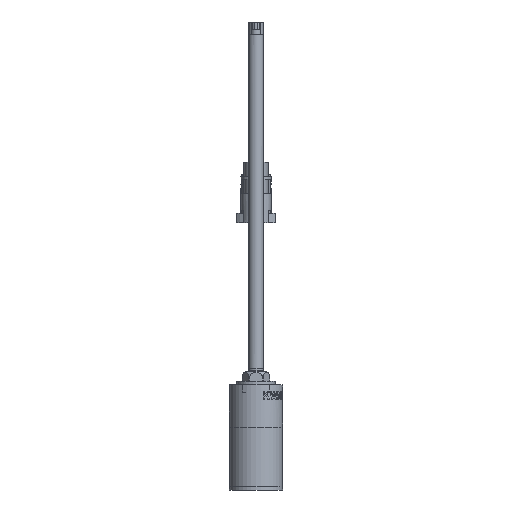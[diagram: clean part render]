
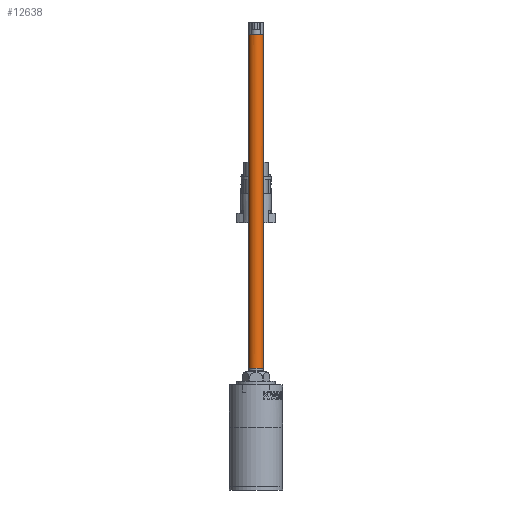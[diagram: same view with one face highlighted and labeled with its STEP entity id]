
A CAD part, left-side view. The second image highlights one B-rep face of the part: STEP entity #12638.
In plain terms, the highlighted cylindrical face has radius 3 mm (diameter 6 mm), a full revolution.
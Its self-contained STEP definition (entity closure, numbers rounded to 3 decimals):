
#12638=ADVANCED_FACE('',(#17310,#17311),#14483,.T.);
#14483=CYLINDRICAL_SURFACE('',#39978,3.);
#15363=B_SPLINE_CURVE_WITH_KNOTS('',3,(#59120,#59121,#59122,#59123,#59124,
#59125,#59126,#59127,#59128,#59129,#59130,#59131,#59132,#59133,#59134,#59135,
#59136,#59137),.UNSPECIFIED.,.T.,.F.,(2,2,2,2,2,2,2,2,2,2,2),(-0.125,0.,
0.125,0.25,0.375,0.5,0.625,0.75,0.875,1.,1.125),.UNSPECIFIED.);
#17310=FACE_BOUND('',#19048,.T.);
#17311=FACE_BOUND('',#19049,.T.);
#19048=EDGE_LOOP('',(#22967));
#19049=EDGE_LOOP('',(#22968));
#22967=ORIENTED_EDGE('',*,*,#34568,.T.);
#22968=ORIENTED_EDGE('',*,*,#34569,.T.);
#31104=VERTEX_POINT('',#59138);
#31105=VERTEX_POINT('',#59140);
#34568=EDGE_CURVE('',#31104,#31104,#15363,.T.);
#34569=EDGE_CURVE('',#31105,#31105,#38485,.T.);
#38485=CIRCLE('',#39977,3.);
#39977=AXIS2_PLACEMENT_3D('',#59139,#43502,#43503);
#39978=AXIS2_PLACEMENT_3D('',#59141,#43504,#43505);
#43502=DIRECTION('',(0.,0.,-1.));
#43503=DIRECTION('',(-1.,0.,0.));
#43504=DIRECTION('',(0.,0.,-1.));
#43505=DIRECTION('',(-1.,0.,0.));
#59120=CARTESIAN_POINT('',(-203.,0.786,50.4));
#59121=CARTESIAN_POINT('',(-203.,-0.785,50.4));
#59122=CARTESIAN_POINT('',(-202.677,-1.566,50.4));
#59123=CARTESIAN_POINT('',(-201.566,-2.676,50.4));
#59124=CARTESIAN_POINT('',(-200.786,-3.,50.4));
#59125=CARTESIAN_POINT('',(-199.215,-3.,50.4));
#59126=CARTESIAN_POINT('',(-198.434,-2.677,50.4));
#59127=CARTESIAN_POINT('',(-197.324,-1.566,50.4));
#59128=CARTESIAN_POINT('',(-197.,-0.786,50.4));
#59129=CARTESIAN_POINT('',(-197.,0.785,50.4));
#59130=CARTESIAN_POINT('',(-197.323,1.566,50.4));
#59131=CARTESIAN_POINT('',(-198.434,2.676,50.4));
#59132=CARTESIAN_POINT('',(-199.214,3.,50.4));
#59133=CARTESIAN_POINT('',(-200.785,3.,50.4));
#59134=CARTESIAN_POINT('',(-201.566,2.677,50.4));
#59135=CARTESIAN_POINT('',(-202.676,1.566,50.4));
#59136=CARTESIAN_POINT('',(-203.,0.786,50.4));
#59137=CARTESIAN_POINT('',(-203.,-0.785,50.4));
#59138=CARTESIAN_POINT('',(-203.,0.,50.4));
#59139=CARTESIAN_POINT('',(-200.,0.,188.5));
#59140=CARTESIAN_POINT('',(-203.,0.,188.5));
#59141=CARTESIAN_POINT('',(-200.,0.,43.5));
